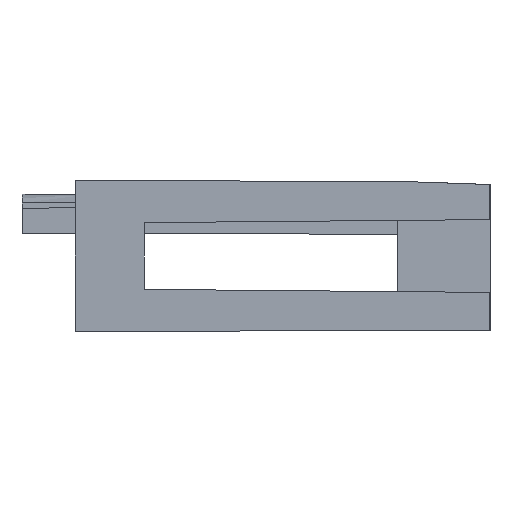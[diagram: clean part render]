
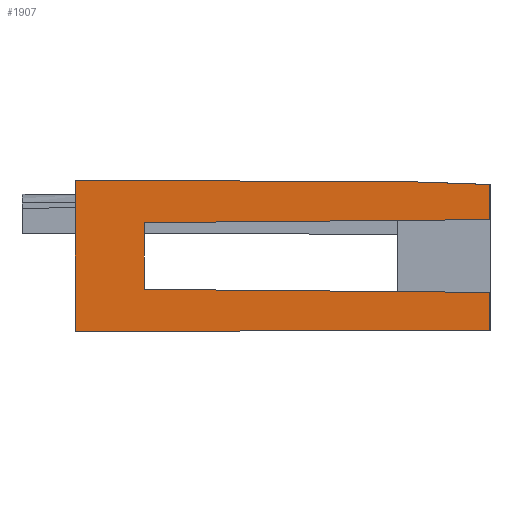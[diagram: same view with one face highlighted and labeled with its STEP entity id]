
A CAD part, left-side view. The second image highlights one B-rep face of the part: STEP entity #1907.
In plain terms, the highlighted planar face has unit normal (-1, 0.002, 0).
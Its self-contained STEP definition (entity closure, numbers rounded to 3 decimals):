
#41=DIRECTION('',(-0.002,-1.,0.002));
#42=VECTOR('',#41,9.);
#43=CARTESIAN_POINT('',(-5.884,9.,-1.635));
#44=LINE('',#43,#42);
#61=DIRECTION('',(0.,0.,1.));
#62=VECTOR('',#61,0.828);
#63=CARTESIAN_POINT('',(-5.9,0.,-1.619));
#64=LINE('',#63,#62);
#77=DIRECTION('',(0.,0.,1.));
#78=VECTOR('',#77,0.762);
#79=CARTESIAN_POINT('',(-5.9,0.,0.788));
#80=LINE('',#79,#78);
#505=DIRECTION('',(-0.002,-1.,-0.002));
#506=VECTOR('',#505,7.);
#507=CARTESIAN_POINT('',(-5.884,9.,1.631));
#508=LINE('',#507,#506);
#557=DIRECTION('',(-0.002,-0.999,-0.035));
#558=VECTOR('',#557,2.001);
#559=CARTESIAN_POINT('',(-5.897,2.,1.619));
#560=LINE('',#559,#558);
#673=DIRECTION('',(0.002,1.,-0.009));
#674=VECTOR('',#673,7.5);
#675=CARTESIAN_POINT('',(-5.9,0.,0.788));
#676=LINE('',#675,#674);
#677=DIRECTION('',(0.,0.,1.));
#678=VECTOR('',#677,1.448);
#679=CARTESIAN_POINT('',(-5.887,7.5,-0.726));
#680=LINE('',#679,#678);
#681=DIRECTION('',(0.002,1.,0.009));
#682=VECTOR('',#681,7.5);
#683=CARTESIAN_POINT('',(-5.9,0.,-0.791));
#684=LINE('',#683,#682);
#685=DIRECTION('',(0.,0.,1.));
#686=VECTOR('',#685,3.266);
#687=CARTESIAN_POINT('',(-5.884,9.,-1.635));
#688=LINE('',#687,#686);
#725=CARTESIAN_POINT('',(-5.9,0.,1.549));
#727=VERTEX_POINT('',#725);
#729=CARTESIAN_POINT('',(-5.884,9.,1.631));
#730=CARTESIAN_POINT('',(-5.897,2.,1.619));
#731=VERTEX_POINT('',#729);
#732=VERTEX_POINT('',#730);
#737=CARTESIAN_POINT('',(-5.884,9.,-1.635));
#738=CARTESIAN_POINT('',(-5.9,0.,-1.619));
#739=VERTEX_POINT('',#737);
#740=VERTEX_POINT('',#738);
#791=CARTESIAN_POINT('',(-5.9,0.,-0.791));
#792=VERTEX_POINT('',#791);
#793=CARTESIAN_POINT('',(-5.9,0.,0.788));
#794=VERTEX_POINT('',#793);
#799=CARTESIAN_POINT('',(-5.887,7.5,-0.726));
#800=CARTESIAN_POINT('',(-5.887,7.5,0.722));
#801=VERTEX_POINT('',#799);
#802=VERTEX_POINT('',#800);
#1889=CARTESIAN_POINT('',(-5.9,0.,-1.804));
#1890=DIRECTION('',(-1.,0.002,0.));
#1891=DIRECTION('',(0.,0.,-1.));
#1892=AXIS2_PLACEMENT_3D('',#1889,#1890,#1891);
#1893=PLANE('',#1892);
#1894=ORIENTED_EDGE('',*,*,#1613,.T.);
#1895=ORIENTED_EDGE('',*,*,#1631,.T.);
#1896=ORIENTED_EDGE('',*,*,#1027,.F.);
#1898=ORIENTED_EDGE('',*,*,#1897,.T.);
#1899=ORIENTED_EDGE('',*,*,#1851,.F.);
#1900=ORIENTED_EDGE('',*,*,#1878,.F.);
#1901=ORIENTED_EDGE('',*,*,#1019,.F.);
#1902=ORIENTED_EDGE('',*,*,#986,.F.);
#1904=ORIENTED_EDGE('',*,*,#1903,.T.);
#1905=EDGE_LOOP('',(#1894,#1895,#1896,#1898,#1899,#1900,#1901,#1902,#1904));
#1906=FACE_OUTER_BOUND('',#1905,.F.);
#1907=ADVANCED_FACE('',(#1906),#1893,.T.);
#986=EDGE_CURVE('',#739,#740,#44,.T.);
#1019=EDGE_CURVE('',#740,#792,#64,.T.);
#1027=EDGE_CURVE('',#794,#727,#80,.T.);
#1613=EDGE_CURVE('',#731,#732,#508,.T.);
#1631=EDGE_CURVE('',#732,#727,#560,.T.);
#1851=EDGE_CURVE('',#801,#802,#680,.T.);
#1878=EDGE_CURVE('',#792,#801,#684,.T.);
#1897=EDGE_CURVE('',#794,#802,#676,.T.);
#1903=EDGE_CURVE('',#739,#731,#688,.T.);
